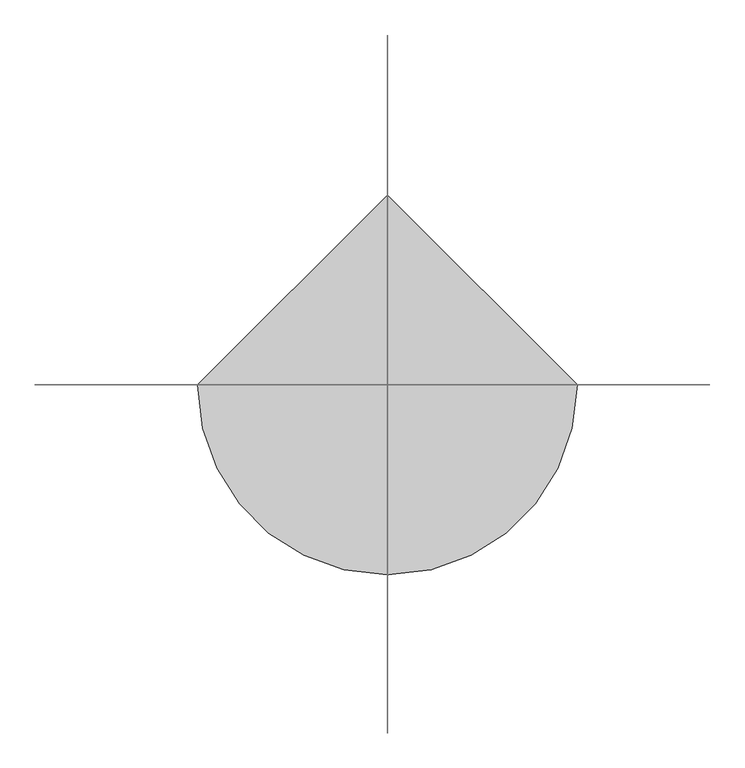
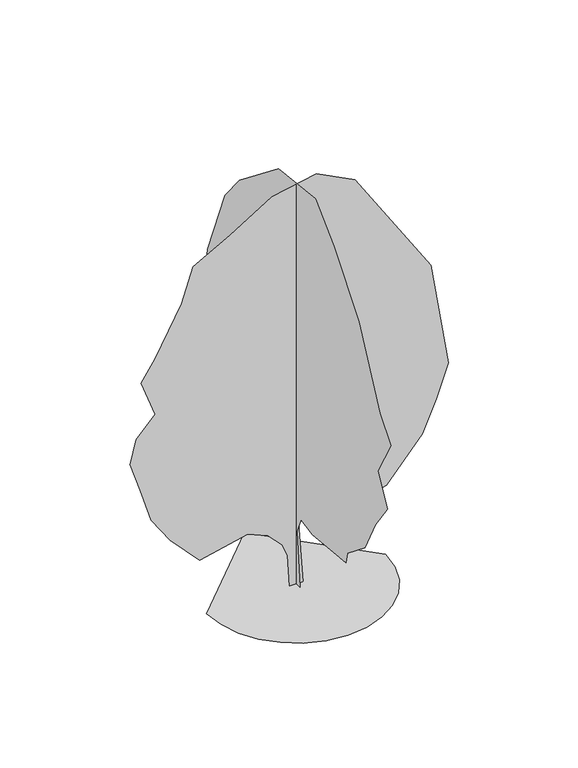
"""IFC4 building model written with IfcOpenShell, lengths in millimetres: geographic element geometry, RPC Árvore - Outono : Bordo de açúcar - 13,7 metros."""

from ifc_helpers import new_model, si_unit, origin, place, context, project, spatial, triangles, source, transform, mapped, element, save


def geographic_element_74743c11(model_context):
    return source(origin(), model_context, "Body", "Tessellation", [
        triangles([(-2871.3139824, 0.0, 9.74e-05), (-2795.4061157, -657.9164549, 9.74e-05), (-2579.2254158, -1262.1087181, 9.74e-05), (-2240.0746056, -1795.2664364, 9.74e-05), (-1795.2664364, -2240.0746056, 9.74e-05), (-1262.1087181, -2579.2254158, 9.74e-05), (-657.9164549, -2795.4061157, 9.74e-05), (0.0001255, -2871.3139824, 9.74e-05), (657.9164549, -2795.4061157, 9.74e-05), (1262.1087181, -2579.2254158, 9.74e-05), (1795.2664364, -2240.0746056, 9.74e-05), (2240.0746056, -1795.2664364, 9.74e-05), (2579.2254158, -1262.1087181, 9.74e-05), (2795.4061157, -657.9164549, 9.74e-05), (2871.3139824, 0.000251, 9.74e-05), (-0.0003765, 2871.3139824, 9.74e-05), (-2.08e-05, -198.9425806, 0.0346414), (4.82e-05, -56.7615789, 1815.5323505), (4.27e-05, -258.5238094, 2338.3922962), (-2.84e-05, -902.6996967, 2205.3095764), (-0.0001312, -1921.0298355, 2322.6018356), (-0.0002186, -2779.37192, 2392.9766098), (-0.000216, -2862.12995, 2768.3103859), (-0.0002945, -3835.0066132, 3542.4358086), (-0.0003214, -4421.4676186, 4691.9153549), (-0.0003626, -5078.3057236, 5606.7955582), (-0.000277, -4538.7799347, 6592.052861), (-0.0003144, -5265.99543, 7882.2618988), (-0.0002291, -4656.0672523, 8609.4773941), (-3.54e-05, -3483.1452415, 11002.2563416), (0.00016, -2099.0839382, 12714.7285583), (0.000297, -1066.909223, 13699.9858612), (0.0005036, 973.982773, 13488.8545624), (0.000679, 3145.440564, 11773.3116028), (0.0007333, 3947.2198219, 10788.9670349), (0.0007623, 4915.0220856, 8374.9027588), (0.0007472, 5079.2190399, 7295.8006027), (0.0007252, 5290.3509201, 5817.9274384), (0.0005917, 4586.6031784, 3800.4776161), (0.0004634, 3624.7880493, 2862.1555298), (0.0004291, 3390.2137047, 2533.7287743), (0.0003736, 3089.0425529, 1724.0874962), (0.0002149, 1411.3548409, 2271.0949505), (0.0001456, 837.2492586, 1953.7804527), (7.65e-05, 382.4300363, 1229.512888), (2.05e-05, 196.6810544, 0.034665), (-208.6545968, 9.1e-06, 0.0), (-283.2598904, -0.0001143, 1062.6140636), (-449.2935785, -0.0001565, 1477.6221622), (-895.8547657, -0.0001934, 1950.6623291), (-1569.2649696, -0.0001971, 2228.7670109), (-3094.0657928, -8.97e-05, 1886.7874489), (-4040.3289642, -0.0001674, 2885.5977036), (-4661.2428085, -0.0002476, 3786.3717911), (-5017.6704712, -0.000368, 4926.4894089), (-5334.4703201, -0.0004701, 5899.9241776), (-5139.0171341, -0.0005724, 6685.8977142), (-4525.0293205, -0.0006775, 7342.7361099), (-4970.7611252, -0.0008007, 8539.0997131), (-4530.5853767, -0.0009011, 9220.4714951), (-3680.5265076, -0.0011255, 10791.12388), (-3305.197673, -0.0012758, 11914.4715912), (-2117.8833721, -0.0014043, 12556.7730835), (-771.6745548, -0.0015631, 13395.0347076), (659.2940598, -0.0016592, 13676.518689), (1886.044035, -0.0016368, 13038.986673), (4318.8192329, -0.0012962, 9289.782962), (4881.8380646, -0.0009041, 5794.4596848), (4506.4836502, -0.0007563, 4691.9153549), (4049.183075, -0.0006148, 3672.9156349), (2899.3991867, -0.0004038, 2324.5248287), (1550.719154, -0.0003083, 2017.6400723), (433.4295033, -0.0003076, 2421.2442158), (75.4706886, -0.0002464, 2039.1313477), (217.8942218, -9.5e-06, 0.0309886)], [[15, 16, 1], [14, 15, 1], [14, 1, 2], [13, 14, 2], [13, 2, 3], [13, 3, 4], [12, 13, 4], [11, 12, 4], [11, 4, 5], [11, 5, 6], [11, 6, 7], [11, 7, 8], [11, 8, 9], [11, 9, 10], [46, 17, 18], [45, 46, 18], [44, 45, 18], [41, 42, 43], [44, 18, 19], [21, 22, 23], [27, 28, 29], [25, 26, 27], [31, 32, 33], [31, 33, 34], [30, 31, 34], [30, 34, 35], [30, 35, 36], [29, 30, 36], [27, 29, 36], [27, 36, 37], [25, 27, 37], [24, 25, 37], [23, 24, 37], [21, 23, 37], [20, 21, 37], [19, 20, 37], [19, 37, 38], [19, 38, 39], [19, 39, 40], [19, 40, 41], [19, 41, 43], [44, 19, 43], [74, 75, 47], [74, 47, 48], [74, 48, 49], [74, 49, 50], [51, 52, 53], [58, 59, 60], [61, 62, 63], [73, 74, 50], [73, 50, 51], [51, 53, 54], [51, 54, 55], [73, 51, 55], [73, 55, 56], [73, 56, 57], [73, 57, 58], [73, 58, 60], [73, 60, 61], [73, 61, 63], [73, 63, 64], [73, 64, 65], [73, 65, 66], [73, 66, 67], [73, 67, 68], [73, 68, 69], [73, 69, 70], [73, 70, 71], [73, 71, 72]], closed=False),
    ])


if __name__ == "__main__":
    model = new_model("IFC4")
    model_context = context("Model", 3, world=origin())
    ifc_project = project(units=[si_unit("LENGTHUNIT", "METRE", prefix="MILLI")], contexts=[model_context])
    site = spatial("IfcSite", under=ifc_project)
    building = spatial("IfcBuilding", under=site)
    placement = place(None, origin())
    geographic_element_shape = geographic_element_74743c11(model_context)
    element("IfcGeographicElement", 1, ObjectType="RPC Árvore - Outono : Bordo de açúcar - 13,7 metros", at=placement, inside=building, context=model_context, shape_type="MappedRepresentation", body=[
        mapped(geographic_element_shape, transform((0.0, 0.0, 0.0), x_axis=(1.0, 0.0, 0.0), y_axis=(0.0, 1.0, 0.0), z_axis=(0.0, 0.0, 1.0))),
    ])
    save(model, "model.ifc")
